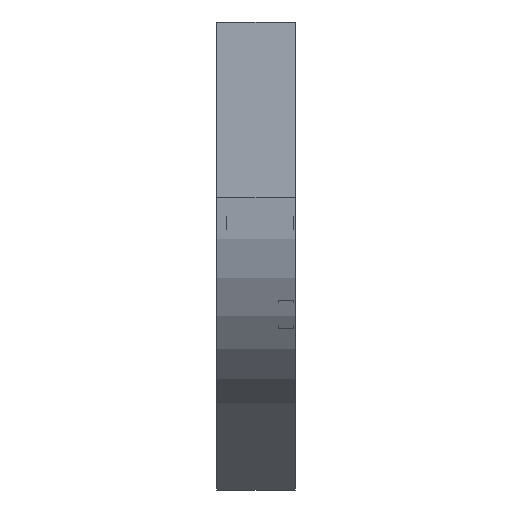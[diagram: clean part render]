
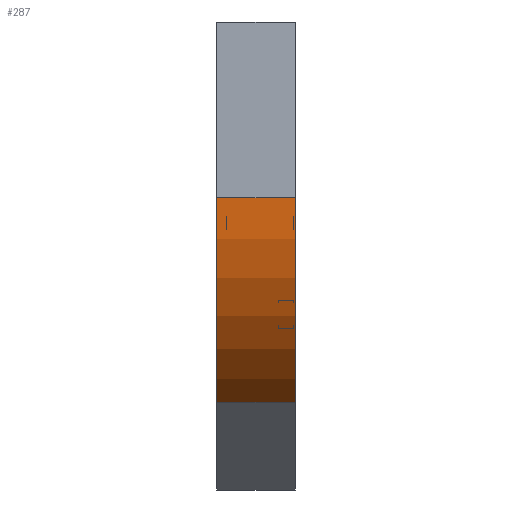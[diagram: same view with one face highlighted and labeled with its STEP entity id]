
A CAD part, left-side view. The second image highlights one B-rep face of the part: STEP entity #287.
In plain terms, the highlighted cylindrical face has radius 300 mm (diameter 600 mm), a partial arc.
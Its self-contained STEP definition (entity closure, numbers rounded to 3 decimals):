
#12 = CARTESIAN_POINT ( 'NONE',  ( 150., 0., -483.013 ) ) ;
#29 = ORIENTED_EDGE ( 'NONE', *, *, #1199, .F. ) ;
#53 = CARTESIAN_POINT ( 'NONE',  ( 0., 0., -223.205 ) ) ;
#72 = DIRECTION ( 'NONE',  ( -1., 0., 0. ) ) ;
#110 = CARTESIAN_POINT ( 'NONE',  ( 150., 100., -483.013 ) ) ;
#156 = CARTESIAN_POINT ( 'NONE',  ( 0., 100., -223.205 ) ) ;
#232 = VECTOR ( 'NONE', #579, 1000. ) ;
#267 = DIRECTION ( 'NONE',  ( -1., 0., 0. ) ) ;
#287 = ADVANCED_FACE ( 'NONE', ( #342 ), #920, .T. ) ;
#323 = AXIS2_PLACEMENT_3D ( 'NONE', #1185, #1496, #1194 ) ;
#342 = FACE_OUTER_BOUND ( 'NONE', #1264, .T. ) ;
#363 = VERTEX_POINT ( 'NONE', #1791 ) ;
#379 = AXIS2_PLACEMENT_3D ( 'NONE', #911, #1485, #72 ) ;
#497 = AXIS2_PLACEMENT_3D ( 'NONE', #960, #1822, #267 ) ;
#570 = LINE ( 'NONE', #1010, #830 ) ;
#579 = DIRECTION ( 'NONE',  ( 0., -1., 0. ) ) ;
#624 = CIRCLE ( 'NONE', #379, 300. ) ;
#684 = VERTEX_POINT ( 'NONE', #110 ) ;
#705 = ORIENTED_EDGE ( 'NONE', *, *, #1641, .F. ) ;
#830 = VECTOR ( 'NONE', #1454, 1000. ) ;
#870 = LINE ( 'NONE', #12, #232 ) ;
#891 = VERTEX_POINT ( 'NONE', #53 ) ;
#911 = CARTESIAN_POINT ( 'NONE',  ( 300., 0., -223.205 ) ) ;
#920 = CYLINDRICAL_SURFACE ( 'NONE', #323, 300. ) ;
#960 = CARTESIAN_POINT ( 'NONE',  ( 300., 100., -223.205 ) ) ;
#974 = EDGE_CURVE ( 'NONE', #1662, #684, #1469, .T. ) ;
#1010 = CARTESIAN_POINT ( 'NONE',  ( 0., 0., -223.205 ) ) ;
#1037 = ORIENTED_EDGE ( 'NONE', *, *, #974, .T. ) ;
#1175 = EDGE_CURVE ( 'NONE', #684, #363, #870, .T. ) ;
#1185 = CARTESIAN_POINT ( 'NONE',  ( 300., 0., -223.205 ) ) ;
#1194 = DIRECTION ( 'NONE',  ( 0., 0., -1. ) ) ;
#1199 = EDGE_CURVE ( 'NONE', #1662, #891, #570, .T. ) ;
#1264 = EDGE_LOOP ( 'NONE', ( #705, #29, #1037, #1857 ) ) ;
#1454 = DIRECTION ( 'NONE',  ( 0., -1., 0. ) ) ;
#1469 = CIRCLE ( 'NONE', #497, 300. ) ;
#1485 = DIRECTION ( 'NONE',  ( 0., -1., 0. ) ) ;
#1496 = DIRECTION ( 'NONE',  ( 0., -1., 0. ) ) ;
#1641 = EDGE_CURVE ( 'NONE', #891, #363, #624, .T. ) ;
#1662 = VERTEX_POINT ( 'NONE', #156 ) ;
#1791 = CARTESIAN_POINT ( 'NONE',  ( 150., 0., -483.013 ) ) ;
#1822 = DIRECTION ( 'NONE',  ( 0., -1., 0. ) ) ;
#1857 = ORIENTED_EDGE ( 'NONE', *, *, #1175, .T. ) ;
